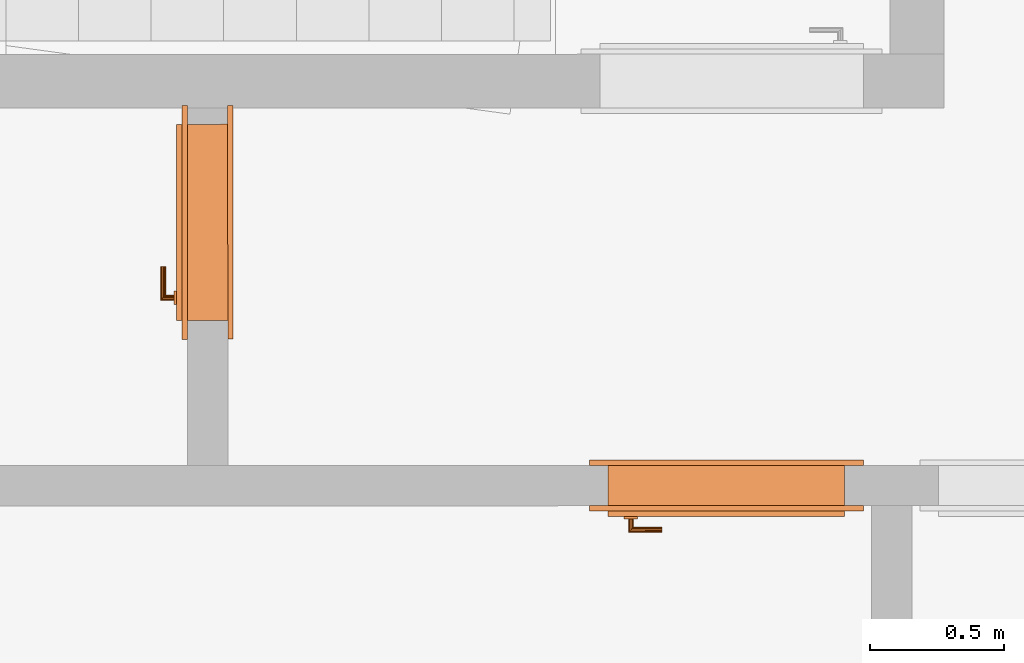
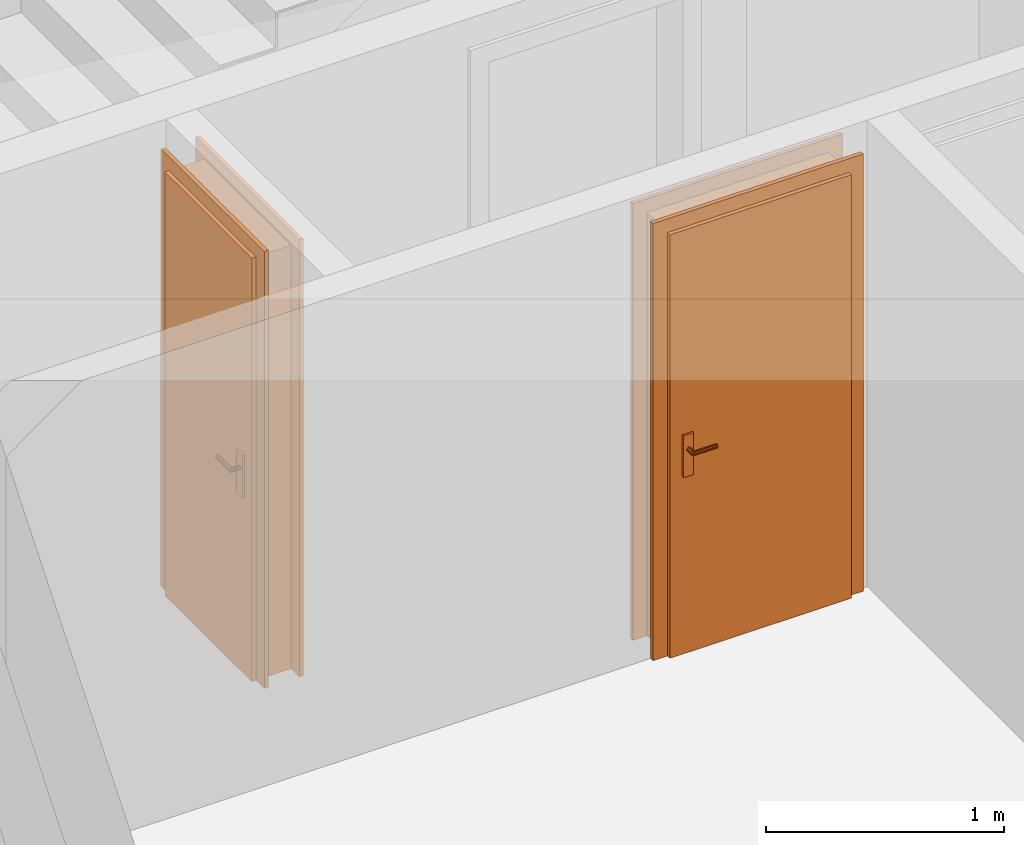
# One storey, part 4 of 9: 2 proxies.
"""IFC2X3 building model written with IfcOpenShell, lengths in metres."""

from ifc_helpers import new_model, entity, si_unit, converted_unit, derived_unit, direction, frame, origin, origin_with_axes, place, context, subcontext, project, spatial, faceted_brep, source, transform, mapped, element, save


model = new_model("IFC2X3")

# Units and contexts
model_context = context("Model", 3, precision=1e-05, world=origin(), true_north=direction((0.772621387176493, -0.634867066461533)))
body_context = subcontext(model_context, "Body", "Model", "MODEL_VIEW")
ifc_project = project(units=[si_unit("LENGTHUNIT", "METRE"), si_unit("AREAUNIT", "SQUARE_METRE"), si_unit("VOLUMEUNIT", "CUBIC_METRE"), si_unit("MASSUNIT", "GRAM", prefix="KILO"), converted_unit("PLANEANGLEUNIT", "DEGREE", entity("IfcPlaneAngleMeasure", 0.0174532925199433), si_unit("PLANEANGLEUNIT", "RADIAN"), dimensions=[0, 0, 0, 0, 0, 0, 0]), derived_unit("THERMALTRANSMITTANCEUNIT", [(si_unit("POWERUNIT", "WATT"), 1), (si_unit("THERMODYNAMICTEMPERATUREUNIT", "KELVIN"), -1), (si_unit("LENGTHUNIT", "METRE"), -2)]), derived_unit("VOLUMETRICFLOWRATEUNIT", [(si_unit("LENGTHUNIT", "METRE"), 3), (converted_unit("TIMEUNIT", "hour", entity("IfcTimeMeasure", 3600.0), si_unit("TIMEUNIT", "SECOND"), dimensions=[0, 0, 1, 0, 0, 0, 0]), -1), (si_unit("LENGTHUNIT", "METRE"), -1)])], contexts=[model_context])

# Site, building, storey
site_placement = place(None, origin())
site = spatial("IfcSite", under=ifc_project, at=site_placement, Name="Modelle auf dem Nullpunkt", CompositionType="ELEMENT")
building_placement = place(site_placement, origin())
building = spatial("IfcBuilding", under=site, at=building_placement, Name="I", CompositionType="ELEMENT")
storey_placement = place(building_placement, origin())
storey = spatial("IfcBuildingStorey", under=building, at=storey_placement, Name="UG", CompositionType="ELEMENT", Elevation=0.0)

# Proxies
shared_shape_1 = source(origin_with_axes(), body_context, "Body", "Brep", [
    faceted_brep([(0.950000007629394, 0.190000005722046, 2.17), (0.930000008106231, 0.190000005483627, 2.17), (0.930000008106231, 0.190000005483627, 0.0), (0.950000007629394, 0.190000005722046, 0.0), (0.950000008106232, 0.0, 0.0), (0.930000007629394, 0.0, 0.0), (0.930000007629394, 0.0, 2.17), (0.950000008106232, 0.0, 2.17)], [[[0, 1, 2, 3]], [[4, 5, 6, 7]], [[3, 4, 7, 0]], [[2, 5, 4, 3]], [[1, 6, 5, 2]], [[0, 7, 6, 1]]], orient=[[False], [False], [False], [False], [False], [False]]),
    faceted_brep([(0.950000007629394, 0.190000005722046, 2.24), (0.950000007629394, 0.190000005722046, 0.0), (1.02000000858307, 0.190000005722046, 0.0), (1.02000000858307, 0.190000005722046, 2.24), (0.950000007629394, 0.170000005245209, 0.0), (0.950000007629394, 0.170000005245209, 2.24), (1.02000000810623, 0.170000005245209, 2.24), (1.02000000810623, 0.170000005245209, 0.0)], [[[0, 1, 2, 3]], [[4, 5, 6, 7]], [[1, 0, 5, 4]], [[2, 1, 4, 7]], [[3, 2, 7, 6]], [[0, 3, 6, 5]]], orient=[[False], [False], [False], [False], [False], [False]]),
    faceted_brep([(0.950000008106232, 0.0200000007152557, 2.24), (0.950000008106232, 0.0200000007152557, 0.0), (1.02000000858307, 0.0200000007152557, 0.0), (1.02000000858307, 0.0200000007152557, 2.24), (0.950000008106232, 0.0, 0.0), (0.950000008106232, 0.0, 2.24), (1.02000000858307, 0.0, 2.24), (1.02000000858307, 0.0, 0.0)], [[[0, 1, 2, 3]], [[4, 5, 6, 7]], [[1, 0, 5, 4]], [[2, 1, 4, 7]], [[3, 2, 7, 6]], [[0, 3, 6, 5]]], orient=[[False], [False], [False], [False], [False], [False]]),
    faceted_brep([(0.0900000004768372, 0.190000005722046, 2.17), (0.0700000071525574, 0.190000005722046, 2.17), (0.0700000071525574, 0.190000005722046, 0.0), (0.0900000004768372, 0.190000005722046, 0.0), (0.0900000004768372, 0.0, 0.0), (0.0700000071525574, 0.0, 0.0), (0.0700000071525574, 0.0, 2.17), (0.0900000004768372, 0.0, 2.17)], [[[0, 1, 2, 3]], [[4, 5, 6, 7]], [[3, 4, 7, 0]], [[2, 5, 4, 3]], [[1, 6, 5, 2]], [[0, 7, 6, 1]]], orient=[[False], [False], [False], [False], [False], [False]]),
    faceted_brep([(0.0700000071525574, 0.190000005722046, 2.24), (0.0, 0.190000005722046, 2.24), (0.0, 0.190000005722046, 0.0), (0.0700000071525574, 0.190000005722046, 0.0), (0.0700000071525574, 0.170000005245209, 0.0), (0.0, 0.170000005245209, 0.0), (0.0, 0.170000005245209, 2.24), (0.0700000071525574, 0.170000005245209, 2.24)], [[[0, 1, 2, 3]], [[4, 5, 6, 7]], [[3, 4, 7, 0]], [[2, 5, 4, 3]], [[1, 6, 5, 2]], [[0, 7, 6, 1]]], orient=[[False], [False], [False], [False], [False], [False]]),
    faceted_brep([(0.0700000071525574, 0.0200000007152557, 2.24), (0.0, 0.0200000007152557, 2.24), (0.0, 0.0200000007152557, 0.0), (0.0700000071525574, 0.0200000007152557, 0.0), (0.0700000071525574, 0.0, 0.0), (0.0, 0.0, 0.0), (0.0, 0.0, 2.24), (0.0700000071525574, 0.0, 2.24)], [[[0, 1, 2, 3]], [[4, 5, 6, 7]], [[3, 4, 7, 0]], [[2, 5, 4, 3]], [[1, 6, 5, 2]], [[0, 7, 6, 1]]], orient=[[False], [False], [False], [False], [False], [False]]),
    faceted_brep([(0.930000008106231, 0.190000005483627, 2.17), (0.0900000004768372, 0.190000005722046, 2.17), (0.0900000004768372, 0.190000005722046, 2.15), (0.930000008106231, 0.190000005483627, 2.15), (0.930000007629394, 0.0, 2.15), (0.0900000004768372, 0.0, 2.15), (0.0900000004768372, 0.0, 2.17), (0.930000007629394, 0.0, 2.17)], [[[0, 1, 2, 3]], [[4, 5, 6, 7]], [[3, 4, 7, 0]], [[2, 5, 4, 3]], [[1, 6, 5, 2]], [[0, 7, 6, 1]]], orient=[[False], [False], [False], [False], [False], [False]]),
    faceted_brep([(0.950000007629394, 0.190000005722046, 2.24), (0.0700000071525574, 0.190000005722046, 2.24), (0.0700000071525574, 0.190000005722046, 2.17), (0.950000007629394, 0.190000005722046, 2.17), (0.950000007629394, 0.170000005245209, 2.17), (0.0700000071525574, 0.170000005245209, 2.17), (0.0700000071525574, 0.170000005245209, 2.24), (0.950000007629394, 0.170000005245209, 2.24)], [[[0, 1, 2, 3]], [[4, 5, 6, 7]], [[3, 4, 7, 0]], [[2, 5, 4, 3]], [[1, 6, 5, 2]], [[0, 7, 6, 1]]], orient=[[False], [False], [False], [False], [False], [False]]),
    faceted_brep([(0.950000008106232, 0.0200000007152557, 2.24), (0.0700000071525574, 0.0200000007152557, 2.24), (0.0700000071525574, 0.0200000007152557, 2.17), (0.950000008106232, 0.0200000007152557, 2.17), (0.950000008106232, 0.0, 2.17), (0.0700000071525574, 0.0, 2.17), (0.0700000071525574, 0.0, 2.24), (0.950000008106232, 0.0, 2.24)], [[[0, 1, 2, 3]], [[4, 5, 6, 7]], [[3, 4, 7, 0]], [[2, 5, 4, 3]], [[1, 6, 5, 2]], [[0, 7, 6, 1]]], orient=[[False], [False], [False], [False], [False], [False]]),
    faceted_brep([(0.950000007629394, 0.210000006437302, 2.17), (0.0700000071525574, 0.210000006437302, 2.17), (0.0700000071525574, 0.210000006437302, 0.0), (0.950000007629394, 0.210000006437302, 0.0), (0.950000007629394, 0.170000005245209, 0.0), (0.0700000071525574, 0.170000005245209, 0.0), (0.0700000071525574, 0.170000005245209, 2.17), (0.950000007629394, 0.170000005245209, 2.17)], [[[0, 1, 2, 3]], [[4, 5, 6, 7]], [[3, 4, 7, 0]], [[2, 5, 4, 3]], [[1, 6, 5, 2]], [[0, 7, 6, 1]]], orient=[[False], [False], [False], [False], [False], [False]]),
    faceted_brep([(0.890000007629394, 0.170000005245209, 1.125), (0.84000000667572, 0.170000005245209, 1.125), (0.84000000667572, 0.170000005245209, 0.91), (0.890000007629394, 0.170000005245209, 0.91), (0.890000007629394, 0.160000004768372, 0.91), (0.84000000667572, 0.160000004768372, 0.91), (0.84000000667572, 0.160000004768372, 1.125), (0.890000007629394, 0.160000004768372, 1.125)], [[[0, 1, 2, 3]], [[4, 5, 6, 7]], [[3, 4, 7, 0]], [[2, 5, 4, 3]], [[1, 6, 5, 2]], [[0, 7, 6, 1]]], orient=[[False], [False], [False], [False], [False], [False]]),
    faceted_brep([(0.865000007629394, 0.160000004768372, 1.06), (0.860000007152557, 0.160000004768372, 1.05866025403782), (0.85633975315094, 0.160000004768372, 1.055), (0.855000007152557, 0.160000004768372, 1.05), (0.85633975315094, 0.160000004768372, 1.045), (0.860000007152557, 0.160000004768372, 1.04133974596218), (0.865000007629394, 0.160000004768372, 1.04), (0.870000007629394, 0.160000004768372, 1.04133974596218), (0.873660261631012, 0.160000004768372, 1.045), (0.875000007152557, 0.160000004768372, 1.05), (0.873660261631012, 0.160000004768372, 1.055), (0.870000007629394, 0.160000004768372, 1.05866025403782), (0.870000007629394, 0.11500000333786, 1.05866025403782), (0.865000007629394, 0.120000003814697, 1.06), (0.873660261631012, 0.111339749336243, 1.055), (0.875000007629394, 0.11000000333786, 1.05), (0.873660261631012, 0.111339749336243, 1.045), (0.870000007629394, 0.11500000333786, 1.04133974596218), (0.865000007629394, 0.120000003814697, 1.04), (0.860000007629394, 0.125000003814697, 1.04133974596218), (0.85633975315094, 0.128660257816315, 1.045), (0.855000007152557, 0.130000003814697, 1.05), (0.85633975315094, 0.128660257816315, 1.055), (0.860000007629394, 0.125000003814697, 1.05866025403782), (0.75000000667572, 0.120000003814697, 1.06), (0.75000000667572, 0.115000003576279, 1.05866025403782), (0.75000000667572, 0.111339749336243, 1.055), (0.75000000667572, 0.11000000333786, 1.05), (0.75000000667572, 0.111339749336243, 1.045), (0.75000000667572, 0.115000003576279, 1.04133974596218), (0.75000000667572, 0.120000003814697, 1.04), (0.75000000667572, 0.125000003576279, 1.04133974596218), (0.750000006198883, 0.128660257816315, 1.045), (0.75000000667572, 0.130000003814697, 1.05), (0.750000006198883, 0.128660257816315, 1.055), (0.75000000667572, 0.125000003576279, 1.05866025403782)], [[[0, 1, 2, 3, 4, 5, 6, 7, 8, 9, 10, 11]], [[0, 11, 12, 13]], [[11, 10, 14, 12]], [[10, 9, 15, 14]], [[9, 8, 16, 15]], [[8, 7, 17, 16]], [[7, 6, 18, 17]], [[6, 5, 19, 18]], [[5, 4, 20, 19]], [[4, 3, 21, 20]], [[3, 2, 22, 21]], [[2, 1, 23, 22]], [[1, 0, 13, 23]], [[24, 25, 26, 27, 28, 29, 30, 31, 32, 33, 34, 35]], [[13, 12, 25, 24]], [[12, 14, 26, 25]], [[14, 15, 27, 26]], [[15, 16, 28, 27]], [[16, 17, 29, 28]], [[17, 18, 30, 29]], [[18, 19, 31, 30]], [[19, 20, 32, 31]], [[20, 21, 33, 32]], [[21, 22, 34, 33]], [[22, 23, 35, 34]], [[23, 13, 24, 35]]], orient=[[False], [False], [False], [False], [False], [False], [False], [False], [False], [False], [False], [False], [False], [False], [False], [False], [False], [False], [False], [False], [False], [False], [False], [False], [False], [False]]),
    faceted_brep([(0.890000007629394, 0.210000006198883, 1.125), (0.890000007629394, 0.210000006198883, 0.91), (0.84000000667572, 0.210000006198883, 0.91), (0.84000000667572, 0.210000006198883, 1.125), (0.890000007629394, 0.220000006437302, 0.91), (0.890000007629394, 0.220000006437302, 1.125), (0.84000000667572, 0.22000000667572, 1.125), (0.84000000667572, 0.22000000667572, 0.91)], [[[0, 1, 2, 3]], [[4, 5, 6, 7]], [[1, 0, 5, 4]], [[2, 1, 4, 7]], [[3, 2, 7, 6]], [[0, 3, 6, 5]]], orient=[[False], [False], [False], [False], [False], [False]]),
    faceted_brep([(0.865000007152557, 0.220000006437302, 1.06), (0.870000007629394, 0.220000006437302, 1.05866025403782), (0.873660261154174, 0.22000000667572, 1.055), (0.875000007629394, 0.220000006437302, 1.05), (0.873660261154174, 0.22000000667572, 1.045), (0.870000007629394, 0.220000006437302, 1.04133974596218), (0.865000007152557, 0.220000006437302, 1.04), (0.860000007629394, 0.220000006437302, 1.04133974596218), (0.85633975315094, 0.220000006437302, 1.045), (0.855000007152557, 0.22000000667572, 1.05), (0.85633975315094, 0.220000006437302, 1.055), (0.860000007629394, 0.220000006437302, 1.05866025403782), (0.865000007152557, 0.260000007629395, 1.06), (0.870000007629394, 0.265000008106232, 1.05866025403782), (0.873660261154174, 0.268660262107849, 1.055), (0.875000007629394, 0.270000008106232, 1.05), (0.873660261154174, 0.268660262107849, 1.045), (0.870000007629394, 0.265000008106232, 1.04133974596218), (0.865000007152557, 0.260000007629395, 1.04), (0.860000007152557, 0.255000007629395, 1.04133974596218), (0.85633975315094, 0.251339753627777, 1.045), (0.855000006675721, 0.250000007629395, 1.05), (0.85633975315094, 0.251339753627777, 1.055), (0.860000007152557, 0.255000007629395, 1.05866025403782), (0.75000000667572, 0.260000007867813, 1.06), (0.750000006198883, 0.255000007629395, 1.05866025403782), (0.75000000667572, 0.251339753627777, 1.055), (0.75000000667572, 0.250000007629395, 1.05), (0.75000000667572, 0.251339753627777, 1.045), (0.750000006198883, 0.255000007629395, 1.04133974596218), (0.75000000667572, 0.260000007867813, 1.04), (0.75000000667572, 0.265000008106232, 1.04133974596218), (0.75000000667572, 0.268660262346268, 1.045), (0.75000000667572, 0.270000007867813, 1.05), (0.75000000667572, 0.268660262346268, 1.055), (0.75000000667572, 0.265000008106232, 1.05866025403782)], [[[0, 1, 2, 3, 4, 5, 6, 7, 8, 9, 10, 11]], [[0, 12, 13, 1]], [[1, 13, 14, 2]], [[2, 14, 15, 3]], [[3, 15, 16, 4]], [[4, 16, 17, 5]], [[5, 17, 18, 6]], [[6, 18, 19, 7]], [[7, 19, 20, 8]], [[8, 20, 21, 9]], [[9, 21, 22, 10]], [[10, 22, 23, 11]], [[11, 23, 12, 0]], [[24, 25, 26, 27, 28, 29, 30, 31, 32, 33, 34, 35]], [[12, 24, 35, 13]], [[13, 35, 34, 14]], [[14, 34, 33, 15]], [[15, 33, 32, 16]], [[16, 32, 31, 17]], [[17, 31, 30, 18]], [[18, 30, 29, 19]], [[19, 29, 28, 20]], [[20, 28, 27, 21]], [[21, 27, 26, 22]], [[22, 26, 25, 23]], [[23, 25, 24, 12]]], orient=[[False], [False], [False], [False], [False], [False], [False], [False], [False], [False], [False], [False], [False], [False], [False], [False], [False], [False], [False], [False], [False], [False], [False], [False], [False], [False]]),
])
proxy_1_placement = place(storey_placement, frame((33.9634674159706, -2.1617613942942, 433.22), z_axis=(0.0, 0.0, 1.0), x_axis=(-0.999999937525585, -0.000353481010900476, 0.0)))
element("IfcBuildingElementProxy", 1, at=proxy_1_placement, inside=storey, Name="1flg Weiß UZ außen", context=body_context, shape_type="MappedRepresentation", body=[
    mapped(shared_shape_1, transform((0.0, 0.0, 0.0), x_axis=(1.0, 0.0, 0.0), y_axis=(0.0, 1.0, 0.0), z_axis=(0.0, 0.0, 1.0), scale=1.0)),
])
shared_shape_2 = source(origin_with_axes(), body_context, "Body", "Brep", [
    faceted_brep([(0.070000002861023, 0.190000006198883, 2.17), (0.070000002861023, 0.190000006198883, 0.0), (0.0900000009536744, 0.190000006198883, 0.0), (0.0900000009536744, 0.190000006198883, 2.17), (0.070000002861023, 0.0, 0.0), (0.070000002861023, 0.0, 2.17), (0.0900000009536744, 0.0, 2.17), (0.0900000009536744, 0.0, 0.0)], [[[0, 1, 2, 3]], [[4, 5, 6, 7]], [[1, 0, 5, 4]], [[2, 1, 4, 7]], [[3, 2, 7, 6]], [[0, 3, 6, 5]]], orient=[[False], [False], [False], [False], [False], [False]]),
    faceted_brep([(0.070000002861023, 0.190000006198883, 2.24), (0.0, 0.190000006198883, 2.24), (0.0, 0.190000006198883, 0.0), (0.070000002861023, 0.190000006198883, 0.0), (0.070000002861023, 0.170000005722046, 0.0), (0.0, 0.170000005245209, 0.0), (0.0, 0.170000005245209, 2.24), (0.070000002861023, 0.170000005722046, 2.24)], [[[0, 1, 2, 3]], [[4, 5, 6, 7]], [[3, 4, 7, 0]], [[2, 5, 4, 3]], [[1, 6, 5, 2]], [[0, 7, 6, 1]]], orient=[[False], [False], [False], [False], [False], [False]]),
    faceted_brep([(0.070000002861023, 0.0200000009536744, 2.24), (0.0, 0.0200000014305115, 2.24), (0.0, 0.0200000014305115, 0.0), (0.070000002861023, 0.0200000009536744, 0.0), (0.070000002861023, 0.0, 0.0), (0.0, 0.0, 0.0), (0.0, 0.0, 2.24), (0.070000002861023, 0.0, 2.24)], [[[0, 1, 2, 3]], [[4, 5, 6, 7]], [[3, 4, 7, 0]], [[2, 5, 4, 3]], [[1, 6, 5, 2]], [[0, 7, 6, 1]]], orient=[[False], [False], [False], [False], [False], [False]]),
    faceted_brep([(0.780000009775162, 0.190000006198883, 2.17), (0.780000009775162, 0.190000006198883, 0.0), (0.800000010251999, 0.190000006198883, 0.0), (0.800000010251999, 0.190000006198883, 2.17), (0.780000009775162, 0.0, 0.0), (0.780000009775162, 0.0, 2.17), (0.800000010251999, 0.0, 2.17), (0.800000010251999, 0.0, 0.0)], [[[0, 1, 2, 3]], [[4, 5, 6, 7]], [[1, 0, 5, 4]], [[2, 1, 4, 7]], [[3, 2, 7, 6]], [[0, 3, 6, 5]]], orient=[[False], [False], [False], [False], [False], [False]]),
    faceted_brep([(0.800000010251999, 0.190000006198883, 2.24), (0.800000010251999, 0.190000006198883, 0.0), (0.870000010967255, 0.19000000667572, 0.0), (0.870000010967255, 0.19000000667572, 2.24), (0.800000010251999, 0.170000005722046, 0.0), (0.800000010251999, 0.170000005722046, 2.24), (0.870000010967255, 0.170000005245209, 2.24), (0.870000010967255, 0.170000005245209, 0.0)], [[[0, 1, 2, 3]], [[4, 5, 6, 7]], [[1, 0, 5, 4]], [[2, 1, 4, 7]], [[3, 2, 7, 6]], [[0, 3, 6, 5]]], orient=[[False], [False], [False], [False], [False], [False]]),
    faceted_brep([(0.800000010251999, 0.0200000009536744, 2.24), (0.800000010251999, 0.0200000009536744, 0.0), (0.870000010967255, 0.0200000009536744, 0.0), (0.870000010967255, 0.0200000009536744, 2.24), (0.800000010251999, 0.0, 0.0), (0.800000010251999, 0.0, 2.24), (0.870000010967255, 0.0, 2.24), (0.870000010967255, 0.0, 0.0)], [[[0, 1, 2, 3]], [[4, 5, 6, 7]], [[1, 0, 5, 4]], [[2, 1, 4, 7]], [[3, 2, 7, 6]], [[0, 3, 6, 5]]], orient=[[False], [False], [False], [False], [False], [False]]),
    faceted_brep([(0.0900000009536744, 0.190000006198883, 2.17), (0.0900000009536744, 0.190000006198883, 2.15), (0.780000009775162, 0.190000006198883, 2.15), (0.780000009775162, 0.190000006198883, 2.17), (0.0900000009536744, 0.0, 2.15), (0.0900000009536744, 0.0, 2.17), (0.780000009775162, 0.0, 2.17), (0.780000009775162, 0.0, 2.15)], [[[0, 1, 2, 3]], [[4, 5, 6, 7]], [[1, 0, 5, 4]], [[2, 1, 4, 7]], [[3, 2, 7, 6]], [[0, 3, 6, 5]]], orient=[[False], [False], [False], [False], [False], [False]]),
    faceted_brep([(0.070000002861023, 0.190000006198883, 2.24), (0.070000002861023, 0.190000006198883, 2.17), (0.800000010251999, 0.190000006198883, 2.17), (0.800000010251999, 0.190000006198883, 2.24), (0.070000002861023, 0.170000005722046, 2.17), (0.070000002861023, 0.170000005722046, 2.24), (0.800000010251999, 0.170000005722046, 2.24), (0.800000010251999, 0.170000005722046, 2.17)], [[[0, 1, 2, 3]], [[4, 5, 6, 7]], [[1, 0, 5, 4]], [[2, 1, 4, 7]], [[3, 2, 7, 6]], [[0, 3, 6, 5]]], orient=[[False], [False], [False], [False], [False], [False]]),
    faceted_brep([(0.070000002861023, 0.0200000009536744, 2.24), (0.070000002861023, 0.0200000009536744, 2.17), (0.800000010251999, 0.0200000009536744, 2.17), (0.800000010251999, 0.0200000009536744, 2.24), (0.070000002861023, 0.0, 2.17), (0.070000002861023, 0.0, 2.24), (0.800000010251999, 0.0, 2.24), (0.800000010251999, 0.0, 2.17)], [[[0, 1, 2, 3]], [[4, 5, 6, 7]], [[1, 0, 5, 4]], [[2, 1, 4, 7]], [[3, 2, 7, 6]], [[0, 3, 6, 5]]], orient=[[False], [False], [False], [False], [False], [False]]),
    faceted_brep([(0.070000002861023, 0.21000000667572, 2.17), (0.070000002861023, 0.21000000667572, 0.0), (0.800000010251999, 0.21000000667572, 0.0), (0.800000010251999, 0.21000000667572, 2.17), (0.070000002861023, 0.170000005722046, 0.0), (0.070000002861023, 0.170000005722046, 2.17), (0.800000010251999, 0.170000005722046, 2.17), (0.800000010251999, 0.170000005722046, 0.0)], [[[0, 1, 2, 3]], [[4, 5, 6, 7]], [[1, 0, 5, 4]], [[2, 1, 4, 7]], [[3, 2, 7, 6]], [[0, 3, 6, 5]]], orient=[[False], [False], [False], [False], [False], [False]]),
    faceted_brep([(0.130000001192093, 0.170000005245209, 1.125), (0.130000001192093, 0.170000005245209, 0.91), (0.180000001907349, 0.170000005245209, 0.91), (0.180000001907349, 0.170000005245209, 1.125), (0.130000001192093, 0.160000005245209, 0.91), (0.130000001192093, 0.160000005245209, 1.125), (0.180000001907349, 0.160000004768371, 1.125), (0.180000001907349, 0.160000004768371, 0.91)], [[[0, 1, 2, 3]], [[4, 5, 6, 7]], [[1, 0, 5, 4]], [[2, 1, 4, 7]], [[3, 2, 7, 6]], [[0, 3, 6, 5]]], orient=[[False], [False], [False], [False], [False], [False]]),
    faceted_brep([(0.155000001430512, 0.160000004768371, 1.06), (0.150000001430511, 0.160000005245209, 1.05866025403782), (0.146339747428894, 0.160000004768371, 1.055), (0.145000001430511, 0.160000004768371, 1.05), (0.146339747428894, 0.160000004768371, 1.045), (0.150000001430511, 0.160000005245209, 1.04133974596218), (0.155000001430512, 0.160000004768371, 1.04), (0.16000000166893, 0.160000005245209, 1.04133974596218), (0.163660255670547, 0.160000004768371, 1.045), (0.165000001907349, 0.160000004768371, 1.05), (0.163660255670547, 0.160000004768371, 1.055), (0.16000000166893, 0.160000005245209, 1.05866025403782), (0.155000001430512, 0.120000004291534, 1.06), (0.150000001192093, 0.115000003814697, 1.05866025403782), (0.146339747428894, 0.11133974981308, 1.055), (0.14500000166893, 0.110000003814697, 1.05), (0.146339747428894, 0.11133974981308, 1.045), (0.150000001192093, 0.115000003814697, 1.04133974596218), (0.155000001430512, 0.120000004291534, 1.04), (0.16000000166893, 0.125000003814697, 1.04133974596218), (0.163660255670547, 0.128660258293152, 1.045), (0.165000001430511, 0.130000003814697, 1.05), (0.163660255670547, 0.128660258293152, 1.055), (0.16000000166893, 0.125000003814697, 1.05866025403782), (0.270000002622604, 0.120000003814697, 1.06), (0.270000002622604, 0.125000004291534, 1.05866025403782), (0.270000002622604, 0.128660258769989, 1.055), (0.270000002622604, 0.130000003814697, 1.05), (0.270000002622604, 0.128660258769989, 1.045), (0.270000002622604, 0.125000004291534, 1.04133974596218), (0.270000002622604, 0.120000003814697, 1.04), (0.270000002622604, 0.115000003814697, 1.04133974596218), (0.270000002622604, 0.11133974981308, 1.045), (0.270000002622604, 0.110000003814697, 1.05), (0.270000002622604, 0.11133974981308, 1.055), (0.270000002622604, 0.115000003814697, 1.05866025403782)], [[[0, 1, 2, 3, 4, 5, 6, 7, 8, 9, 10, 11]], [[0, 12, 13, 1]], [[1, 13, 14, 2]], [[2, 14, 15, 3]], [[3, 15, 16, 4]], [[4, 16, 17, 5]], [[5, 17, 18, 6]], [[6, 18, 19, 7]], [[7, 19, 20, 8]], [[8, 20, 21, 9]], [[9, 21, 22, 10]], [[10, 22, 23, 11]], [[11, 23, 12, 0]], [[24, 25, 26, 27, 28, 29, 30, 31, 32, 33, 34, 35]], [[12, 24, 35, 13]], [[13, 35, 34, 14]], [[14, 34, 33, 15]], [[15, 33, 32, 16]], [[16, 32, 31, 17]], [[17, 31, 30, 18]], [[18, 30, 29, 19]], [[19, 29, 28, 20]], [[20, 28, 27, 21]], [[21, 27, 26, 22]], [[22, 26, 25, 23]], [[23, 25, 24, 12]]], orient=[[False], [False], [False], [False], [False], [False], [False], [False], [False], [False], [False], [False], [False], [False], [False], [False], [False], [False], [False], [False], [False], [False], [False], [False], [False], [False]]),
    faceted_brep([(0.130000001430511, 0.21000000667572, 1.125), (0.180000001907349, 0.21000000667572, 1.125), (0.180000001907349, 0.21000000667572, 0.91), (0.130000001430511, 0.21000000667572, 0.91), (0.130000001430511, 0.22000000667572, 0.91), (0.180000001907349, 0.220000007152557, 0.91), (0.180000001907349, 0.220000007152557, 1.125), (0.130000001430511, 0.22000000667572, 1.125)], [[[0, 1, 2, 3]], [[4, 5, 6, 7]], [[3, 4, 7, 0]], [[2, 5, 4, 3]], [[1, 6, 5, 2]], [[0, 7, 6, 1]]], orient=[[False], [False], [False], [False], [False], [False]]),
    faceted_brep([(0.155000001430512, 0.220000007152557, 1.06), (0.16000000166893, 0.220000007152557, 1.05866025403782), (0.163660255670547, 0.220000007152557, 1.055), (0.16500000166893, 0.220000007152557, 1.05), (0.163660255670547, 0.220000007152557, 1.045), (0.16000000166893, 0.220000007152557, 1.04133974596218), (0.155000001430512, 0.220000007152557, 1.04), (0.150000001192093, 0.220000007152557, 1.04133974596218), (0.146339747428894, 0.220000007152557, 1.045), (0.145000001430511, 0.220000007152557, 1.05), (0.146339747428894, 0.220000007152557, 1.055), (0.150000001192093, 0.220000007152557, 1.05866025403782), (0.150000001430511, 0.265000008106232, 1.05866025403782), (0.15500000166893, 0.260000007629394, 1.06), (0.146339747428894, 0.268660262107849, 1.055), (0.145000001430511, 0.270000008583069, 1.05), (0.146339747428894, 0.268660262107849, 1.045), (0.150000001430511, 0.265000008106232, 1.04133974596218), (0.15500000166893, 0.260000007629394, 1.04), (0.16000000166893, 0.255000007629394, 1.04133974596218), (0.163660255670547, 0.251339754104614, 1.045), (0.165000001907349, 0.250000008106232, 1.05), (0.163660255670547, 0.251339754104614, 1.055), (0.16000000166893, 0.255000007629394, 1.05866025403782), (0.270000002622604, 0.260000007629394, 1.06), (0.270000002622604, 0.265000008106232, 1.05866025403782), (0.270000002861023, 0.268660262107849, 1.055), (0.270000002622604, 0.270000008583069, 1.05), (0.270000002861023, 0.268660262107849, 1.045), (0.270000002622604, 0.265000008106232, 1.04133974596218), (0.270000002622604, 0.260000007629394, 1.04), (0.270000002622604, 0.255000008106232, 1.04133974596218), (0.270000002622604, 0.251339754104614, 1.045), (0.270000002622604, 0.250000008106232, 1.05), (0.270000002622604, 0.251339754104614, 1.055), (0.270000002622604, 0.255000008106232, 1.05866025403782)], [[[0, 1, 2, 3, 4, 5, 6, 7, 8, 9, 10, 11]], [[0, 11, 12, 13]], [[11, 10, 14, 12]], [[10, 9, 15, 14]], [[9, 8, 16, 15]], [[8, 7, 17, 16]], [[7, 6, 18, 17]], [[6, 5, 19, 18]], [[5, 4, 20, 19]], [[4, 3, 21, 20]], [[3, 2, 22, 21]], [[2, 1, 23, 22]], [[1, 0, 13, 23]], [[24, 25, 26, 27, 28, 29, 30, 31, 32, 33, 34, 35]], [[13, 12, 25, 24]], [[12, 14, 26, 25]], [[14, 15, 27, 26]], [[15, 16, 28, 27]], [[16, 17, 29, 28]], [[17, 18, 30, 29]], [[18, 19, 31, 30]], [[19, 20, 32, 31]], [[20, 21, 33, 32]], [[21, 22, 34, 33]], [[22, 23, 35, 34]], [[23, 13, 24, 35]]], orient=[[False], [False], [False], [False], [False], [False], [False], [False], [False], [False], [False], [False], [False], [False], [False], [False], [False], [False], [False], [False], [False], [False], [False], [False], [False], [False]]),
])
proxy_2_placement = place(storey_placement, frame((31.6183084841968, -1.71259033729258, 433.22), z_axis=(0.0, 0.0, 1.0), x_axis=(-0.000353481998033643, 0.999999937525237, 0.0)))
element("IfcBuildingElementProxy", 2, at=proxy_2_placement, inside=storey, Name="1flg Weiß UZ außen", context=body_context, shape_type="MappedRepresentation", body=[
    mapped(shared_shape_2, transform((0.0, 0.0, 0.0), x_axis=(1.0, 0.0, 0.0), y_axis=(0.0, 1.0, 0.0), z_axis=(0.0, 0.0, 1.0), scale=1.0)),
])

save(model, "model.ifc")
